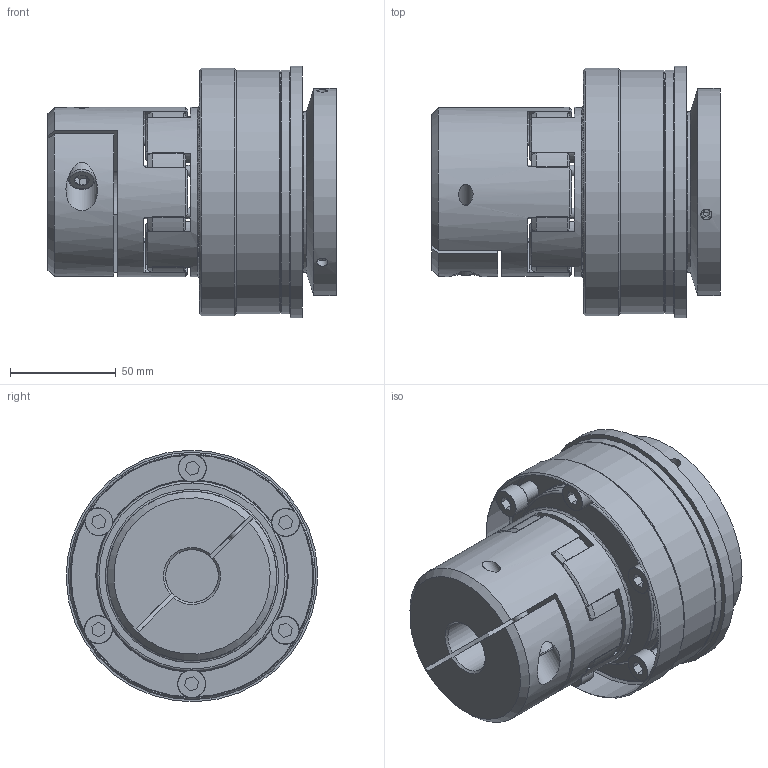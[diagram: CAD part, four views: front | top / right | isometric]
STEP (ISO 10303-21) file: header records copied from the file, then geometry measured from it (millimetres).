
FILE_DESCRIPTION( ( 'Unknown' ), '1' );
FILE_NAME( 'C:/Users/skarpstein/Desktop/Korrigierte 3D Modelle/KBK-E-KP/KBK EKP-38-134.stp', 'Unknown', ( 'Unknown' ), ( 'Unknown' ), 'PSStep 16.0.42', 'Unknown', ' ' );
FILE_SCHEMA( ( 'AUTOMOTIVE_DESIGN { 1 0 10303 214 1 1 1 1 }' ) );
Length unit declared in the file: millimetre
Products named in the file (27): ball_bearing_-_6011_0_01; ball_bearing_-_6011_0_02; ball_bearing_-_6011_0_03; Zylinderschraube DIN 912_1; Kupplung L-P-300 Grundkörper; Druckring 300; Stellring 300; Elastomerflansch 38; Assem3_0; a_55; Assem1_2; Zahnkranz_38_Standard; Flansch 300; Assem1; KBE 2 - 38_Nabe; ISO EN DIN 4762 M8x30
Assembly tree (31 placements, depth 4):
  Assem1
    KBE 2 - 38_Nabe
    ISO EN DIN 4762 M8x30
    Stellring 300
      Stellring 300
    Druckring 300
      Druckring 300
    Flansch 300
      Flansch 300
    a_55
      a_55
    Zahnkranz_38_Standard
      Zahnkranz_38_Standard
    Kupplung L-P-300 Grundkörper
      Kupplung L-P-300 Grundkörper
    Elastomerflansch 38
      Elastomerflansch 38
    Assem1_2
      ball_bearing_-_6011_0_01
        ball_bearing_-_6011_0_01
      ball_bearing_-_6011_0_02
        ball_bearing_-_6011_0_02
      ball_bearing_-_6011_0_03
        ball_bearing_-_6011_0_03
    Assem3_0  x6
      Zylinderschraube DIN 912_1
        Zylinderschraube DIN 912_1
Bounding box: 136.2 x 118.96 x 118.96 mm (x, y, z)
Volume: 821937.9 mm3; surface area: 219119.6 mm2
Topology: 18 solids, 18 shells, 449 faces, 1005 edges, 631 vertices
Faces by surface type: plane 155, cylinder 151, cone 118, torus 25
Full cylindrical faces by diameter (mm): 2.5 x2, 3.242 x3, 5 x8, 5.2 x3, 6.647 x6, 6.8 x1, 7 x1, 8 x8, 8.2 x6, 9 x1, 13 x7, 13.2 x6, 15 x1, 25 x1, 38 x2, 40 x1, 52 x1, 55 x3, 56 x1, 66.3 x2, 70 x1, 76 x2, 79.1 x2, 80 x2, 83.5 x1, 88 x1, 90 x3, 98 x1, 98.5 x1, 115 x2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
Entity records: 14429 total; most frequent: CARTESIAN_POINT 2686, DIRECTION 1881, ORIENTED_EDGE 1450, AXIS2_PLACEMENT_3D 868, EDGE_CURVE 725, EDGE_LOOP 568, VERTEX_POINT 511, FACE_OUTER_BOUND 471
